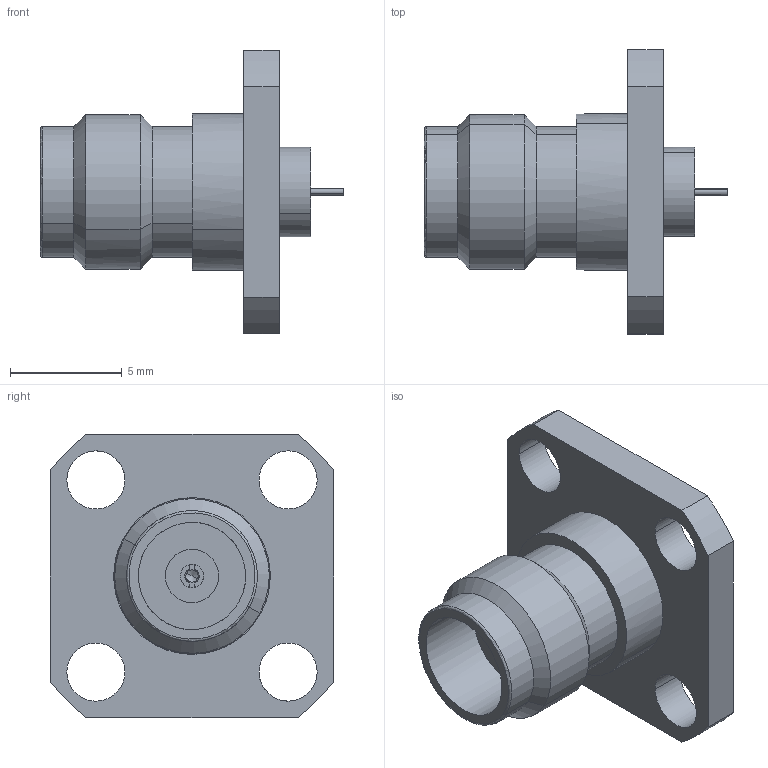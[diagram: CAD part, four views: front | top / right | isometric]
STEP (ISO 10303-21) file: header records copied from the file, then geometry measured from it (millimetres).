
FILE_DESCRIPTION(('CATIA V5 STEP Exchange'),'2;1');
FILE_NAME('F:\Work SZ\CMP 图纸\Precision Coaxial Connector\2.4mm\97-02-9F2-013\97-02-9F2-013A(REV.A).stp','2013-08-09T01:38:54+00:00',('none'),('none'),'CATIA Version 5 Release 17 (IN-10)','CATIA V5 STEP AP203','none');
FILE_SCHEMA(('CONFIG_CONTROL_DESIGN'));
Length unit declared in the file: millimetre
Products named in the file (1): 97-02-9F2-013A
Bounding box: 13.58 x 12.7 x 12.7 mm (x, y, z)
Volume: 470.6 mm3; surface area: 693.2 mm2
Topology: 1 solids, 1 shells, 68 faces, 163 edges, 103 vertices
Faces by surface type: cylinder 34, plane 21, cone 11, torus 2
Entity records: 2405 total; most frequent: CARTESIAN_POINT 901, ORIENTED_EDGE 322, DIRECTION 236, EDGE_CURVE 161, AXIS2_PLACEMENT_3D 106, VERTEX_POINT 103, EDGE_LOOP 84, VECTOR 71
